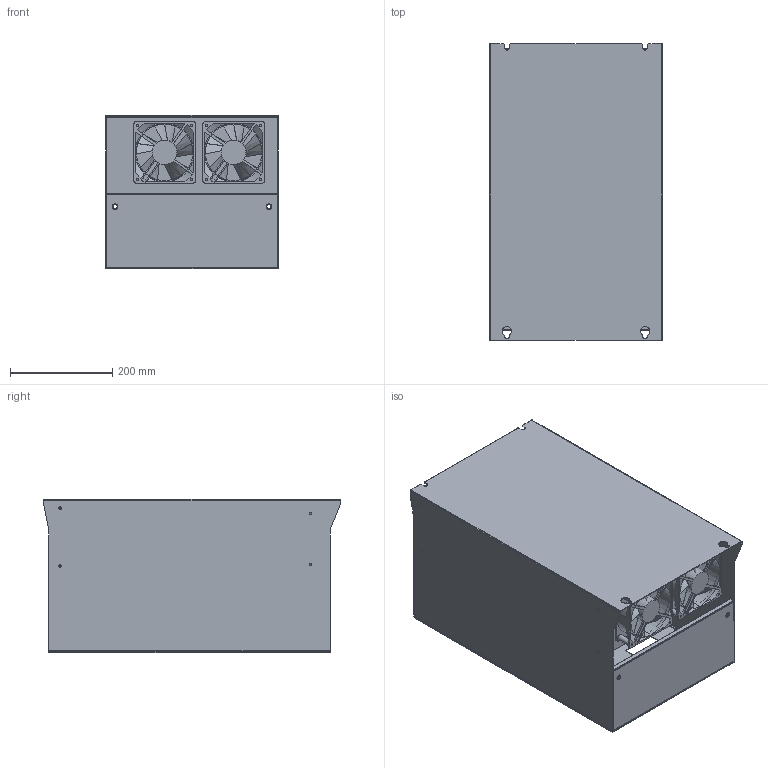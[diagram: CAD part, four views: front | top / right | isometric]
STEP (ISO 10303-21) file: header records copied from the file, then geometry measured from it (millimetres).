
FILE_DESCRIPTION((''),'2;1');
FILE_NAME('A28_ASM','2016-05-10T',('Administrator'),(''),'PRO/ENGINEER BY PARAMETRIC TECHNOLOGY CORPORATION, 2011310','PRO/ENGINEER BY PARAMETRIC TECHNOLOGY CORPORATION, 2011310','');
FILE_SCHEMA(('CONFIG_CONTROL_DESIGN'));
Length unit declared in the file: millimetre
Products named in the file (16): A28JX02; A28JX04; A28JX06; A28JX01_ASM; A28JX03; A28JX08; A28JX09; A28JX11; A28JX15_ASM; A28JX12; A28JX16_ASM; A28ZP02_ASM; A28ZP01_ASM; TB-JNA360; 12038; A28_ASM
Assembly tree (24 placements, depth 5):
  A28_ASM
    A28ZP01_ASM
      A28ZP02_ASM
        A28JX01_ASM
          A28JX02
          A28JX04
          A28JX06
        A28JX03
        A28JX08
        A28JX09
        A28JX15_ASM
          A28JX11
        A28JX16_ASM
          A28JX12
    TB-JNA360  x9
    12038  x2
Bounding box: 338 x 580 x 300 mm (x, y, z)
Volume: 2075488.1 mm3; surface area: 2234375.2 mm2
Topology: 30 solids, 42 shells, 1568 faces, 4330 edges, 2824 vertices
Faces by surface type: plane 881, cylinder 621, bspline 42, cone 16, torus 8
Entity records: 32879 total; most frequent: CARTESIAN_POINT 6560, DIRECTION 5495, ORIENTED_EDGE 5322, EDGE_CURVE 2681, AXIS2_PLACEMENT_3D 1896, VERTEX_POINT 1729, VECTOR 1703, LINE 1703
